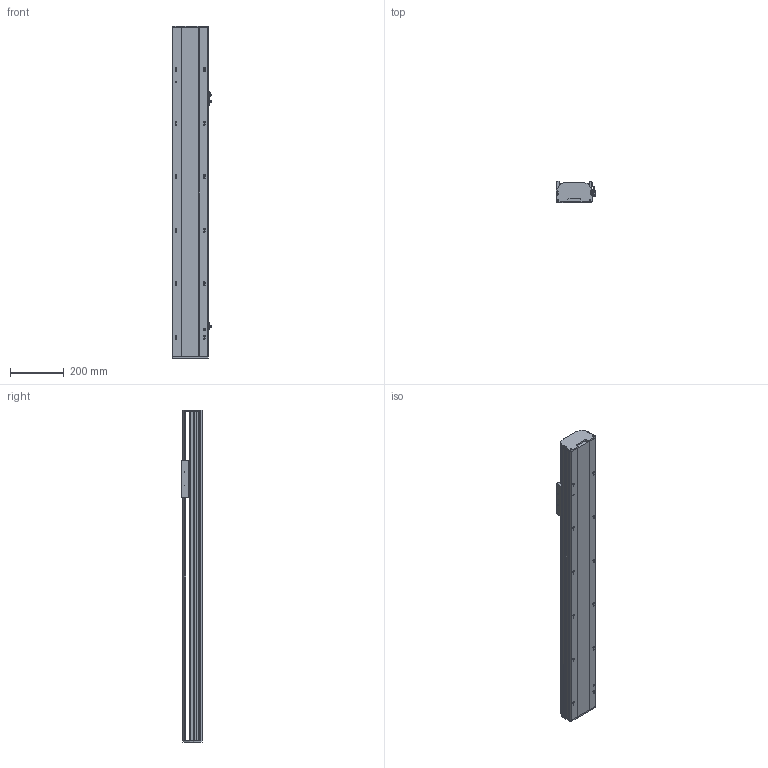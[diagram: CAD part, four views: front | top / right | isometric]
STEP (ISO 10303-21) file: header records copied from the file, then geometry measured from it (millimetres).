
FILE_DESCRIPTION (( 'STEP AP214' ), '1' );
FILE_NAME ('QTH14-850-M-P40.STEP', '2021-11-13T08:37:33', ( '' ), ( '' ), 'SwSTEP 2.0', 'SolidWorks 2020', '' );
FILE_SCHEMA (( 'AUTOMOTIVE_DESIGN' ));
Length unit declared in the file: millimetre
Products named in the file (5): 葩璃 pm-t65-672^QTH14-M-P40; 葩璃 QTH14-BC-005 賑釱MZ-135-03 ^QTH14-M-P40_SFA16; 葩璃 QTH14-M-002 奻裔MZ-135-02^QTH14-M-P40; 葩璃 QTH14-M-001 菁釱MZ-135-01^QTH14-M-P40; QTH14-850-M-P40
Assembly tree (6 placements, depth 2):
  QTH14-850-M-P40
    葩璃 QTH14-M-001 菁釱MZ-135-01^QTH14-M-P40
    葩璃 QTH14-M-002 奻裔MZ-135-02^QTH14-M-P40
    葩璃 QTH14-BC-005 賑釱MZ-135-03 ^QTH14-M-P40_SFA16
    葩璃 pm-t65-672^QTH14-M-P40  x3
Bounding box: 148.7 x 78 x 1240 mm (x, y, z)
Volume: 8654982.1 mm3; surface area: 955570.8 mm2
Topology: 10 solids, 10 shells, 841 faces, 2256 edges, 1454 vertices
Faces by surface type: plane 506, cylinder 279, cone 56
Entity records: 20084 total; most frequent: DIRECTION 3336, CARTESIAN_POINT 3214, ORIENTED_EDGE 3140, EDGE_CURVE 1570, AXIS2_PLACEMENT_3D 1152, LINE 1032, VECTOR 1032, VERTEX_POINT 1030
